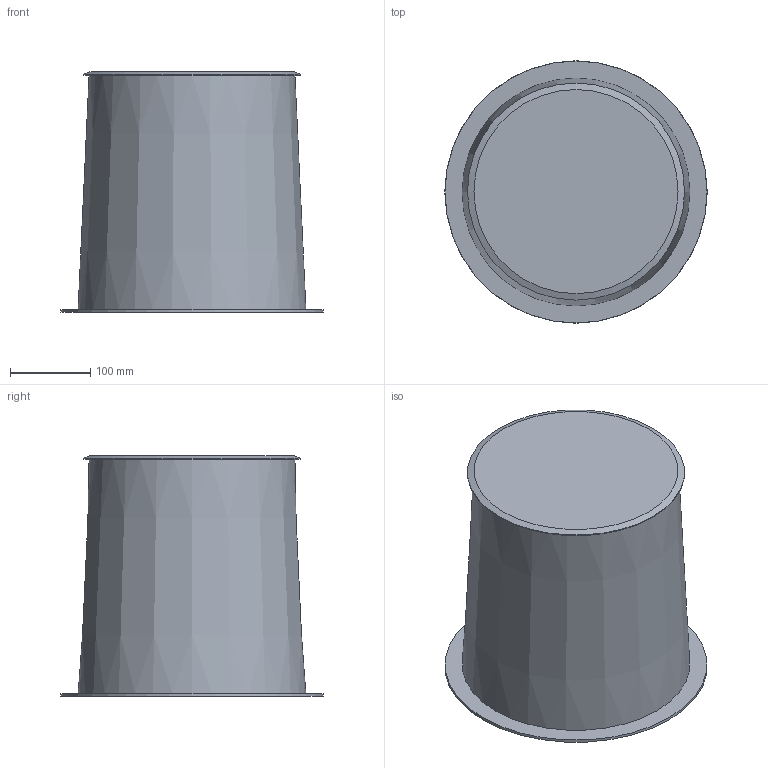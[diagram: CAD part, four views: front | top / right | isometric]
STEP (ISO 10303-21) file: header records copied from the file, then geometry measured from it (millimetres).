
FILE_DESCRIPTION(/* description */ ('Unknown'),/* implementation_level */ '2;1');
FILE_NAME(/* name */ 'Lyrae M_celek',/* time_stamp */ '2024-05-16T11:38:11+02:00',/* author */ ('Unknown'),/* organization */ ('Unknown'),/* preprocessor_version */ 'ST-DEVELOPER v19.4',/* originating_system */ 'Solid Edge',/* authorisation */ 'Unknown');
FILE_SCHEMA (('AUTOMOTIVE_DESIGN {1 0 10303 214 3 1 1}'));
Length unit declared in the file: millimetre
Products named in the file (1): Lyrae M_zjednodušený model
Bounding box: 326.47 x 326.47 x 298.7 mm (x, y, z)
Volume: 17158584.7 mm3; surface area: 418993.1 mm2
Topology: 1 solids, 1 shells, 8 faces, 11 edges, 7 vertices
Faces by surface type: plane 4, cone 3, cylinder 1
Full cylindrical faces by diameter (mm): 270 x1
Entity records: 184 total; most frequent: DIRECTION 32, CARTESIAN_POINT 23, AXIS2_PLACEMENT_3D 16, ORIENTED_EDGE 14, EDGE_LOOP 14, FACE_BOUND 14, ADVANCED_FACE 8, EDGE_CURVE 7
